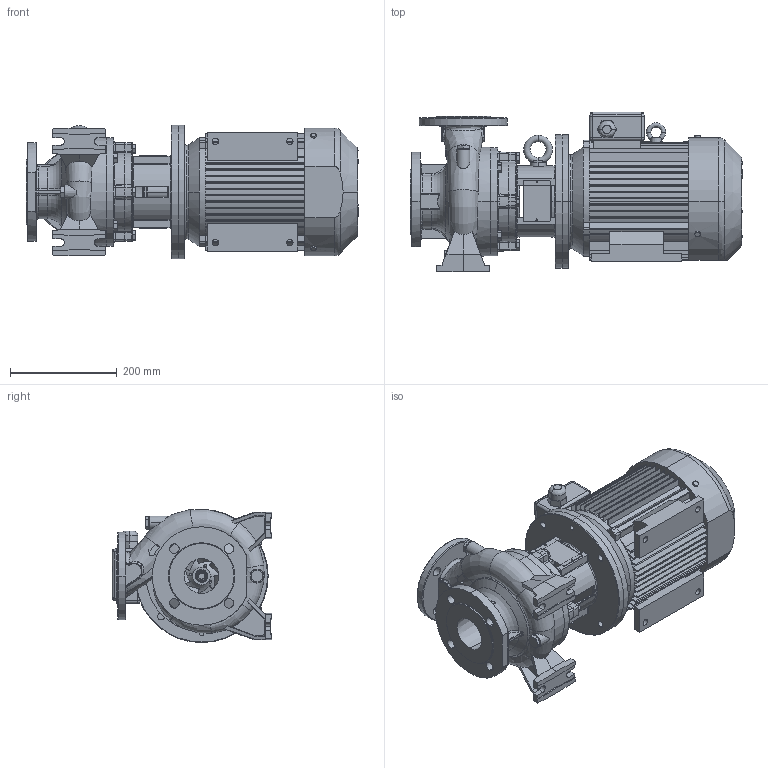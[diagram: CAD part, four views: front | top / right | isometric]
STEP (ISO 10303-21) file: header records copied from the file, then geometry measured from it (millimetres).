
FILE_DESCRIPTION (( 'STEP AP203' ), '1' );
FILE_NAME ('CNG 50-125 A Special Nema Premium.STEP', '2017-05-30T09:51:24', ( 'tecnico1' ), ( '' ), 'SwSTEP 2.0', 'SolidWorks 2016', '' );
FILE_SCHEMA (( 'CONFIG_CONTROL_DESIGN' ));
Length unit declared in the file: millimetre
Products named in the file (1): CNG 50-125 A Special Nema Premium
Bounding box: 623.5 x 300 x 250 mm (x, y, z)
Volume: 16664582.1 mm3; surface area: 1499974.4 mm2
Topology: 23 solids, 23 shells, 2139 faces, 5534 edges, 3394 vertices
Faces by surface type: plane 694, cylinder 635, bspline 342, cone 210, torus 208, sphere 50
Entity records: 105458 total; most frequent: CARTESIAN_POINT 55671, ORIENTED_EDGE 10852, DIRECTION 9848, EDGE_CURVE 5426, AXIS2_PLACEMENT_3D 3834, VERTEX_POINT 3394, EDGE_LOOP 2342, LINE 2180
